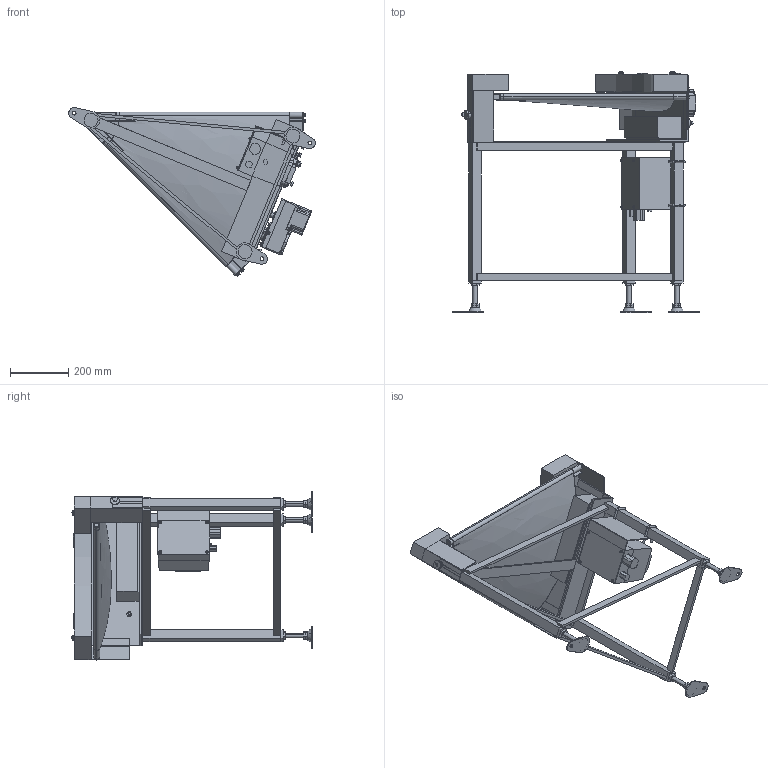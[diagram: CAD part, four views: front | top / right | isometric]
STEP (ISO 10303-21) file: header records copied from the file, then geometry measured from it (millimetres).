
FILE_DESCRIPTION (( 'STEP AP214' ), '1' );
FILE_NAME ('GFBC45-HS500-DC-L.STEP', '2024-01-18T01:34:14', ( '' ), ( '' ), 'SwSTEP 2.0', 'SolidWorks 2017', '' );
FILE_SCHEMA (( 'AUTOMOTIVE_DESIGN' ));
Length unit declared in the file: millimetre
Products named in the file (1): GFBC45-HS500-DC-L
Bounding box: 848.25 x 827.92 x 580.08 mm (x, y, z)
Volume: 16270365.3 mm3; surface area: 3167366.4 mm2
Topology: 65 solids, 66 shells, 1378 faces, 3231 edges, 2075 vertices
Faces by surface type: plane 866, cylinder 408, bspline 40, cone 40, torus 20, sphere 4
Entity records: 47129 total; most frequent: CARTESIAN_POINT 14435, DIRECTION 6673, ORIENTED_EDGE 6414, EDGE_CURVE 3207, AXIS2_PLACEMENT_3D 2280, LINE 2113, VECTOR 2113, VERTEX_POINT 2075
